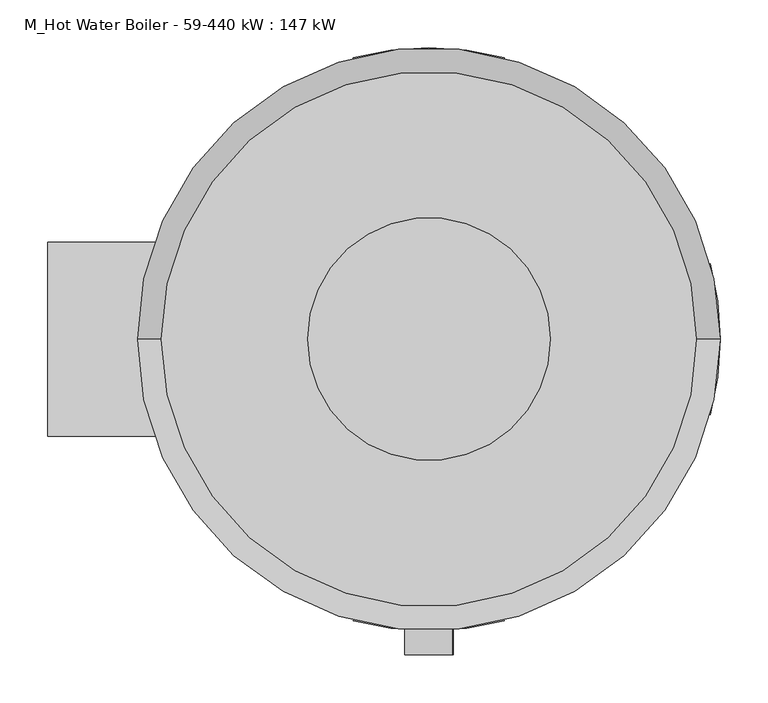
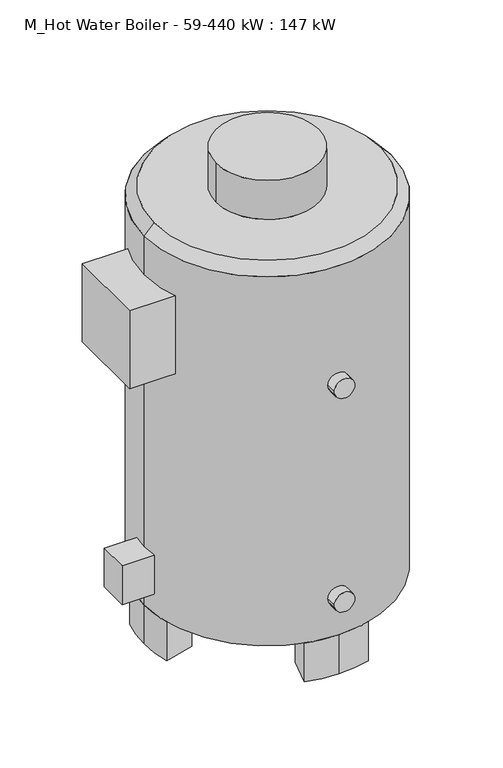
"""IFC4 building model written with IfcOpenShell, lengths in millimetres: unitary equipment geometry, M_Hot Water Boiler - 59-440 kW : 147 kW."""

from ifc_helpers import new_model, si_unit, point, frame, frame_2d, origin, origin_with_axes, origin_2d, place, context, project, spatial, polyline, circle_curve, trimmed, segment, composite_curve, outline, extrude, faceted_brep, source, transform, mapped, element, save
from ifc_brep_helpers import plane_surface, cylinder_surface, revolved_surface, advanced_brep


def m_hot_water_boiler_59_440_kw_147_kw_86a3cd63(model_context):
    return source(origin(), model_context, "Body", "SolidModel", [
        extrude(outline(composite_curve([segment(trimmed(circle_curve(frame_2d((761.8, 0.0)), 25.4), [point((761.8, -25.4))], [point((761.8, 25.4))], False, "CARTESIAN"), True, "CONTINUOUS"), segment(trimmed(circle_curve(frame_2d((761.8, 0.0)), 25.4), [point((761.8, 25.4))], [point((761.8, -25.4))], False, "CARTESIAN"), True, "CONTINUOUS")], self_intersect=False)), frame((0.0, -330.4, 0.0), z_axis=(0.0, 1.0, 0.0), x_axis=(0.0, 0.0, 1.0)), (0.0, 0.0, 1.0), 50.8),
        extrude(outline(composite_curve([segment(trimmed(circle_curve(frame_2d((203.2, 0.0)), 25.4), [point((203.2, -25.4))], [point((203.2, 25.4))], False, "CARTESIAN"), True, "CONTINUOUS"), segment(trimmed(circle_curve(frame_2d((203.2, 0.0)), 25.4), [point((203.2, 25.4))], [point((203.2, -25.4))], False, "CARTESIAN"), True, "CONTINUOUS")], self_intersect=False)), frame((0.0, -330.4, 0.0), z_axis=(0.0, 1.0, 0.0), x_axis=(0.0, 0.0, 1.0)), (0.0, 0.0, 1.0), 50.8),
        extrude(outline(composite_curve([segment(trimmed(circle_curve(origin_2d(), 305.0), [point((-305.0, 0.0))], [point((-294.607377, 78.9398088))], False, "CARTESIAN"), True, "CONTINUOUS"), segment(polyline([(-294.607377, 78.9398088), (-221.0038291, 59.2177975)]), True, "CONTINUOUS"), segment(trimmed(circle_curve(origin_2d(), 228.8), [point((-221.0038291, 59.2177975))], [point((-228.8, 0.0))], True, "CARTESIAN"), True, "CONTINUOUS"), segment(trimmed(circle_curve(origin_2d(), 228.8), [point((-228.8, 0.0))], [point((-221.0038291, -59.2177975))], True, "CARTESIAN"), True, "CONTINUOUS"), segment(polyline([(-221.0038291, -59.2177975), (-294.607377, -78.9398088)]), True, "CONTINUOUS"), segment(trimmed(circle_curve(origin_2d(), 305.0), [point((-294.607377, -78.9398088))], [point((-305.0, 0.0))], False, "CARTESIAN"), True, "CONTINUOUS")], self_intersect=False)), origin_with_axes(), (0.0, 0.0, 1.0), 101.6),
        extrude(outline(composite_curve([segment(trimmed(circle_curve(origin_2d(), 305.0), [point((-78.9398088, 294.607377))], [point((0.0, 305.0))], False, "CARTESIAN"), True, "CONTINUOUS"), segment(trimmed(circle_curve(origin_2d(), 305.0), [point((0.0, 305.0))], [point((78.9398088, 294.607377))], False, "CARTESIAN"), True, "CONTINUOUS"), segment(polyline([(78.9398088, 294.607377), (59.2177975, 221.0038291)]), True, "CONTINUOUS"), segment(trimmed(circle_curve(origin_2d(), 228.8), [point((59.2177975, 221.0038291))], [point((0.0, 228.8))], True, "CARTESIAN"), True, "CONTINUOUS"), segment(trimmed(circle_curve(origin_2d(), 228.8), [point((0.0, 228.8))], [point((-59.2177975, 221.0038291))], True, "CARTESIAN"), True, "CONTINUOUS"), segment(polyline([(-59.2177975, 221.0038291), (-78.9398088, 294.607377)]), True, "CONTINUOUS")], self_intersect=False)), origin_with_axes(), (0.0, 0.0, 1.0), 101.6),
        extrude(outline(composite_curve([segment(trimmed(circle_curve(origin_2d(), 305.0), [point((305.0, 0.0))], [point((294.607377, -78.9398088))], False, "CARTESIAN"), True, "CONTINUOUS"), segment(polyline([(294.607377, -78.9398088), (221.0038291, -59.2177975)]), True, "CONTINUOUS"), segment(trimmed(circle_curve(origin_2d(), 228.8), [point((221.0038291, -59.2177975))], [point((228.8, 0.0))], True, "CARTESIAN"), True, "CONTINUOUS"), segment(trimmed(circle_curve(origin_2d(), 228.8), [point((228.8, 0.0))], [point((221.0038291, 59.2177975))], True, "CARTESIAN"), True, "CONTINUOUS"), segment(polyline([(221.0038291, 59.2177975), (294.607377, 78.9398088)]), True, "CONTINUOUS"), segment(trimmed(circle_curve(origin_2d(), 305.0), [point((294.607377, 78.9398088))], [point((305.0, 0.0))], False, "CARTESIAN"), True, "CONTINUOUS")], self_intersect=False)), origin_with_axes(), (0.0, 0.0, 1.0), 101.6),
        extrude(outline(composite_curve([segment(polyline([(-78.9398088, -294.607377), (-59.2177975, -221.0038291)]), True, "CONTINUOUS"), segment(trimmed(circle_curve(origin_2d(), 228.8), [point((-59.2177975, -221.0038291))], [point((0.0, -228.8))], True, "CARTESIAN"), True, "CONTINUOUS"), segment(trimmed(circle_curve(origin_2d(), 228.8), [point((0.0, -228.8))], [point((59.2177975, -221.0038291))], True, "CARTESIAN"), True, "CONTINUOUS"), segment(polyline([(59.2177975, -221.0038291), (78.9398088, -294.607377)]), True, "CONTINUOUS"), segment(trimmed(circle_curve(origin_2d(), 305.0), [point((78.9398088, -294.607377))], [point((0.0, -305.0))], False, "CARTESIAN"), True, "CONTINUOUS"), segment(trimmed(circle_curve(origin_2d(), 305.0), [point((0.0, -305.0))], [point((-78.9398088, -294.607377))], False, "CARTESIAN"), True, "CONTINUOUS")], self_intersect=False)), origin_with_axes(), (0.0, 0.0, 1.0), 101.6),
        advanced_brep(
        [(-127.0, 0.0, 1194.0), (127.0, 0.0, 1194.0), (-127.0, 0.0, 1092.0), (127.0, 0.0, 1092.0), (-280.0, 0.0, 1092.0), (280.0, 0.0, 1092.0), (-305.0, 0.0, 1066.6), (305.0, 0.0, 1066.6)],
        [
            (0, 1, circle_curve(frame((0.0, 0.0, 1194.0), z_axis=(0.0, 0.0, 1.0), x_axis=(1.0, 0.0, 0.0)), 127.0)),
            (1, 0, circle_curve(frame((0.0, 0.0, 1194.0), z_axis=(0.0, 0.0, 1.0), x_axis=(1.0, 0.0, 0.0)), 127.0)),
            (0, 2),
            (2, 3, circle_curve(frame((0.0, 0.0, 1092.0), z_axis=(0.0, 0.0, 1.0), x_axis=(1.0, 0.0, 0.0)), 127.0)),
            (3, 1),
            (3, 2, circle_curve(frame((0.0, 0.0, 1092.0), z_axis=(0.0, 0.0, 1.0), x_axis=(1.0, 0.0, 0.0)), 127.0)),
            (4, 5, circle_curve(frame((0.0, 0.0, 1092.0), z_axis=(0.0, 0.0, 1.0), x_axis=(-1.0, 0.0, 0.0)), 280.0)),
            (5, 4, circle_curve(frame((0.0, 0.0, 1092.0), z_axis=(0.0, 0.0, 1.0), x_axis=(1.0, 0.0, 0.0)), 280.0)),
            (6, 7, circle_curve(frame((0.0, 0.0, 1066.6), z_axis=(0.0, 0.0, -1.0), x_axis=(1.0, 0.0, 0.0)), 305.0)),
            (7, 6, circle_curve(frame((0.0, 0.0, 1066.6), z_axis=(0.0, 0.0, -1.0), x_axis=(-1.0, 0.0, 0.0)), 305.0)),
            (4, 6),
            (7, 5),
        ],
        [
            plane_surface(frame((127.0, 0.0, 1194.0), z_axis=(0.0, 0.0, 1.0), x_axis=(0.0, 1.0, 0.0))),
            cylinder_surface(frame((0.0, 0.0, 1092.0), z_axis=(0.0, 0.0, 1.0), x_axis=(1.0, 0.0, 0.0)), 127.0),
            plane_surface(frame((0.0, 0.0, 1092.0), z_axis=(0.0, 0.0, 1.0), x_axis=(0.0, -1.0, 0.0))),
            plane_surface(frame((0.0, 0.0, 1066.6), z_axis=(0.0, 0.0, -1.0), x_axis=(0.0, -1.0, 0.0))),
            revolved_surface(polyline([(-279.9999999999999, 0.0, 1092.0), (-305.0, 0.0, 1066.6)]), (0.0, 0.0, 1376.48), (0.0, 0.0, -1.0)),
            revolved_surface(polyline([(279.9999999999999, 0.0, 1092.0), (305.0, 0.0, 1066.6)]), (0.0, 0.0, 1376.48), (0.0, 0.0, -1.0)),
        ],
        [
            (0, [[1, 2]]),
            (1, [[-1, 3, 4, 5]]),
            (1, [[-2, -5, 6, -3]]),
            (2, [[7, 8], [-4, -6]]),
            (3, [[9, 10]]),
            (4, [[-7, 11, -10, 12]]),
            (5, [[-8, -12, -9, -11]]),
        ],
    ),
        faceted_brep([(0.0, -101.5, 965.0), (0.0, 101.5, 965.0), (-399.0, 101.5, 965.0), (-399.0, -101.5, 965.0), (0.0, -101.5, 762.0), (-399.0, -101.5, 762.0), (-399.0, 101.5, 762.0), (0.0, 101.5, 762.0)], [[[0, 1, 2, 3]], [[4, 5, 6, 7]], [[1, 0, 4, 7]], [[2, 1, 7, 6]], [[3, 2, 6, 5]], [[0, 3, 5, 4]]]),
        extrude(outline(polyline([(0.0, -38.1), (-381.2, -38.1), (-381.2, 38.1), (0.0, 38.1), (0.0, -38.1)])), frame((0.0, 0.0, 152.4), z_axis=(0.0, 0.0, 1.0), x_axis=(1.0, 0.0, 0.0)), (0.0, 0.0, 1.0), 101.6),
        extrude(outline(composite_curve([segment(trimmed(circle_curve(origin_2d(), 305.0), [point((-305.0, 0.0))], [point((305.0, 0.0))], False, "CARTESIAN"), True, "CONTINUOUS"), segment(trimmed(circle_curve(origin_2d(), 305.0), [point((305.0, 0.0))], [point((-305.0, 0.0))], False, "CARTESIAN"), True, "CONTINUOUS")], self_intersect=False)), frame((0.0, 0.0, 101.6), z_axis=(0.0, 0.0, 1.0), x_axis=(1.0, 0.0, 0.0)), (0.0, 0.0, 1.0), 965.0),
        extrude(outline(composite_curve([segment(trimmed(circle_curve(frame_2d((203.2, 0.0)), 25.4), [point((203.2, 25.4))], [point((203.2, -25.4))], False, "CARTESIAN"), True, "CONTINUOUS"), segment(trimmed(circle_curve(frame_2d((203.2, 0.0)), 25.4), [point((203.2, -25.4))], [point((203.2, 25.4))], False, "CARTESIAN"), True, "CONTINUOUS")], self_intersect=False)), frame((0.0, -330.4, 0.0), z_axis=(0.0, 1.0, 0.0), x_axis=(0.0, 0.0, 1.0)), (0.0, 0.0, 1.0), 50.8),
        extrude(outline(composite_curve([segment(trimmed(circle_curve(frame_2d((761.8, 0.0)), 25.4), [point((761.8, 25.4))], [point((761.8, -25.4))], False, "CARTESIAN"), True, "CONTINUOUS"), segment(trimmed(circle_curve(frame_2d((761.8, 0.0)), 25.4), [point((761.8, -25.4))], [point((761.8, 25.4))], False, "CARTESIAN"), True, "CONTINUOUS")], self_intersect=False)), frame((0.0, -330.4, 0.0), z_axis=(0.0, 1.0, 0.0), x_axis=(0.0, 0.0, 1.0)), (0.0, 0.0, 1.0), 50.8),
    ])


if __name__ == "__main__":
    model = new_model("IFC4")
    model_context = context("Model", 3, world=origin())
    ifc_project = project(units=[si_unit("LENGTHUNIT", "METRE", prefix="MILLI")], contexts=[model_context])
    site = spatial("IfcSite", under=ifc_project)
    building = spatial("IfcBuilding", under=site)
    placement = place(None, origin())
    m_hot_water_boiler_59_440_kw_147_kw_shape = m_hot_water_boiler_59_440_kw_147_kw_86a3cd63(model_context)
    element("IfcUnitaryEquipment", 1, ObjectType="M_Hot Water Boiler - 59-440 kW : 147 kW", at=placement, inside=building, context=model_context, shape_type="MappedRepresentation", body=[
        mapped(m_hot_water_boiler_59_440_kw_147_kw_shape, transform((0.0, 0.0, 0.0), x_axis=(1.0, 0.0, 0.0), y_axis=(0.0, 1.0, 0.0), z_axis=(0.0, 0.0, 1.0))),
    ])
    save(model, "model.ifc")
